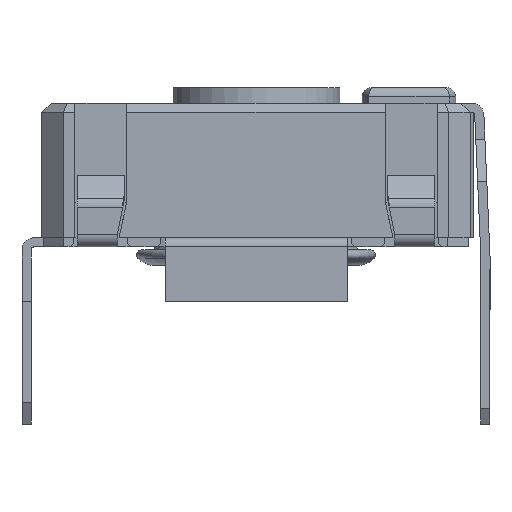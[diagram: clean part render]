
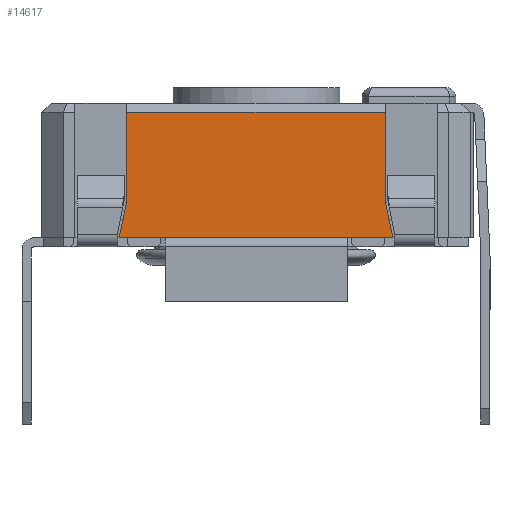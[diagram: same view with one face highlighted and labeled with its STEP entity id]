
A CAD part, left-side view. The second image highlights one B-rep face of the part: STEP entity #14617.
In plain terms, the highlighted planar face has unit normal (-1, 0, 0).
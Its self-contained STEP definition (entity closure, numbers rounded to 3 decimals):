
#1324=FACE_OUTER_BOUND('',#2081,.T.);
#2081=EDGE_LOOP('',(#12451,#12452,#12453,#12454,#12455,#12456));
#3000=LINE('',#22122,#4598);
#3299=LINE('',#23068,#4897);
#3303=LINE('',#23075,#4901);
#3660=LINE('',#23840,#5258);
#3665=LINE('',#23848,#5263);
#3666=LINE('',#23850,#5264);
#4598=VECTOR('',#17820,10.);
#4897=VECTOR('',#18549,10.);
#4901=VECTOR('',#18555,10.);
#5258=VECTOR('',#19300,10.);
#5263=VECTOR('',#19307,10.);
#5264=VECTOR('',#19310,10.);
#6116=VERTEX_POINT('',#22119);
#6117=VERTEX_POINT('',#22121);
#6408=VERTEX_POINT('',#23065);
#6409=VERTEX_POINT('',#23067);
#6411=VERTEX_POINT('',#23073);
#6611=VERTEX_POINT('',#23846);
#7783=EDGE_CURVE('',#6116,#6117,#3000,.T.);
#8193=EDGE_CURVE('',#6408,#6409,#3299,.T.);
#8197=EDGE_CURVE('',#6408,#6411,#3303,.T.);
#8578=EDGE_CURVE('',#6117,#6411,#3660,.T.);
#8583=EDGE_CURVE('',#6611,#6116,#3665,.T.);
#8584=EDGE_CURVE('',#6611,#6409,#3666,.T.);
#12451=ORIENTED_EDGE('',*,*,#8193,.F.);
#12452=ORIENTED_EDGE('',*,*,#8197,.T.);
#12453=ORIENTED_EDGE('',*,*,#8578,.F.);
#12454=ORIENTED_EDGE('',*,*,#7783,.F.);
#12455=ORIENTED_EDGE('',*,*,#8583,.F.);
#12456=ORIENTED_EDGE('',*,*,#8584,.T.);
#13237=PLANE('',#15710);
#14617=ADVANCED_FACE('',(#1324),#13237,.T.);
#15710=AXIS2_PLACEMENT_3D('',#23884,#19356,#19357);
#17820=DIRECTION('',(0.,1.,0.));
#18549=DIRECTION('',(0.,-1.,0.));
#18555=DIRECTION('',(0.,0.,-1.));
#19300=DIRECTION('',(0.,-0.208,0.978));
#19307=DIRECTION('',(0.,-0.208,-0.978));
#19310=DIRECTION('',(0.,0.,1.));
#19356=DIRECTION('center_axis',(-1.,0.,0.));
#19357=DIRECTION('ref_axis',(0.,0.,1.));
#22119=CARTESIAN_POINT('',(-7.,-4.425,-2.225));
#22121=CARTESIAN_POINT('',(-7.,4.525,-2.225));
#22122=CARTESIAN_POINT('',(-7.,-6.25,-2.225));
#23065=CARTESIAN_POINT('',(-7.,4.275,1.875));
#23067=CARTESIAN_POINT('',(-7.,-4.175,1.875));
#23068=CARTESIAN_POINT('',(-7.,-3.1,1.875));
#23073=CARTESIAN_POINT('',(-7.,4.275,-1.049));
#23075=CARTESIAN_POINT('',(-7.,4.275,-2.225));
#23840=CARTESIAN_POINT('',(-7.,4.525,-2.225));
#23846=CARTESIAN_POINT('',(-7.,-4.175,-1.049));
#23848=CARTESIAN_POINT('',(-7.,-4.175,-1.049));
#23850=CARTESIAN_POINT('',(-7.,-4.175,-2.225));
#23884=CARTESIAN_POINT('Origin',(-7.,-6.25,-2.225));
